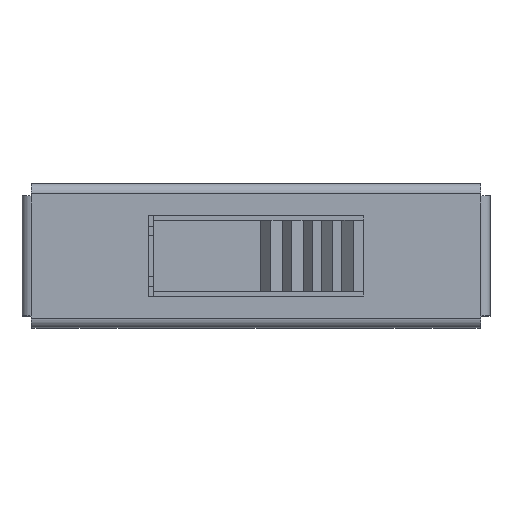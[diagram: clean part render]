
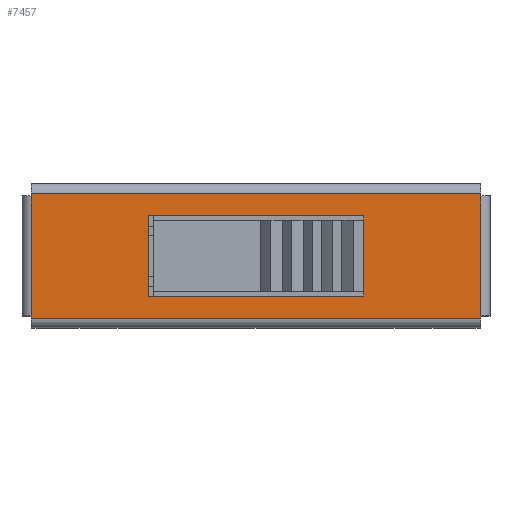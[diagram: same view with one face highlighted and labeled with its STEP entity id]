
A CAD part, top view. The second image highlights one B-rep face of the part: STEP entity #7457.
In plain terms, the highlighted planar face has unit normal (0, 0, 1).
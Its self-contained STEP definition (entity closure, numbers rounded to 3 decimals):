
#1532=DIRECTION('',(0.,-1.,0.));
#1533=VECTOR('',#1532,6.4);
#1534=CARTESIAN_POINT('',(0.,7.1,0.));
#1535=LINE('',#1534,#1533);
#1540=DIRECTION('',(0.,-1.,0.));
#1541=VECTOR('',#1540,0.15);
#1542=CARTESIAN_POINT('',(24.,7.25,0.));
#1543=LINE('',#1542,#1541);
#1544=DIRECTION('',(0.,-1.,0.));
#1545=VECTOR('',#1544,0.15);
#1546=CARTESIAN_POINT('',(24.,0.7,0.));
#1547=LINE('',#1546,#1545);
#1548=DIRECTION('',(0.,1.,0.));
#1549=VECTOR('',#1548,0.15);
#1550=CARTESIAN_POINT('',(0.,0.55,0.));
#1551=LINE('',#1550,#1549);
#1552=DIRECTION('',(0.,1.,0.));
#1553=VECTOR('',#1552,0.15);
#1554=CARTESIAN_POINT('',(0.,7.1,0.));
#1555=LINE('',#1554,#1553);
#1556=DIRECTION('',(0.,1.,0.));
#1557=VECTOR('',#1556,0.25);
#1558=CARTESIAN_POINT('',(17.75,5.8,0.));
#1559=LINE('',#1558,#1557);
#1560=DIRECTION('',(-1.,0.,0.));
#1561=VECTOR('',#1560,11.5);
#1562=CARTESIAN_POINT('',(17.75,6.05,0.));
#1563=LINE('',#1562,#1561);
#1564=DIRECTION('',(0.,-1.,0.));
#1565=VECTOR('',#1564,4.3);
#1566=CARTESIAN_POINT('',(6.25,6.05,0.));
#1567=LINE('',#1566,#1565);
#1568=DIRECTION('',(1.,0.,0.));
#1569=VECTOR('',#1568,11.5);
#1570=CARTESIAN_POINT('',(6.25,1.75,0.));
#1571=LINE('',#1570,#1569);
#1572=DIRECTION('',(0.,1.,0.));
#1573=VECTOR('',#1572,0.25);
#1574=CARTESIAN_POINT('',(17.75,1.75,0.));
#1575=LINE('',#1574,#1573);
#1576=DIRECTION('',(0.,1.,0.));
#1577=VECTOR('',#1576,3.8);
#1578=CARTESIAN_POINT('',(17.75,2.,0.));
#1579=LINE('',#1578,#1577);
#1584=DIRECTION('',(-1.,0.,0.));
#1585=VECTOR('',#1584,24.);
#1586=CARTESIAN_POINT('',(24.,7.25,0.));
#1587=LINE('',#1586,#1585);
#1588=DIRECTION('',(0.,1.,0.));
#1589=VECTOR('',#1588,6.4);
#1590=CARTESIAN_POINT('',(24.,0.7,0.));
#1591=LINE('',#1590,#1589);
#1653=DIRECTION('',(1.,0.,0.));
#1654=VECTOR('',#1653,24.);
#1655=CARTESIAN_POINT('',(0.,0.55,0.));
#1656=LINE('',#1655,#1654);
#4769=CARTESIAN_POINT('',(0.,7.1,0.));
#4771=VERTEX_POINT('',#4769);
#4773=CARTESIAN_POINT('',(0.,7.25,0.));
#4774=VERTEX_POINT('',#4773);
#4781=CARTESIAN_POINT('',(0.,0.7,0.));
#4782=VERTEX_POINT('',#4781);
#4785=CARTESIAN_POINT('',(24.,7.25,0.));
#4786=VERTEX_POINT('',#4785);
#4787=CARTESIAN_POINT('',(24.,7.1,0.));
#4788=VERTEX_POINT('',#4787);
#4789=CARTESIAN_POINT('',(24.,0.7,0.));
#4790=VERTEX_POINT('',#4789);
#4791=CARTESIAN_POINT('',(24.,0.55,0.));
#4792=VERTEX_POINT('',#4791);
#4793=CARTESIAN_POINT('',(0.,0.55,0.));
#4794=VERTEX_POINT('',#4793);
#4795=CARTESIAN_POINT('',(17.75,5.8,0.));
#4796=CARTESIAN_POINT('',(17.75,6.05,0.));
#4797=VERTEX_POINT('',#4795);
#4798=VERTEX_POINT('',#4796);
#4799=CARTESIAN_POINT('',(6.25,6.05,0.));
#4800=VERTEX_POINT('',#4799);
#4801=CARTESIAN_POINT('',(6.25,1.75,0.));
#4802=VERTEX_POINT('',#4801);
#4803=CARTESIAN_POINT('',(17.75,1.75,0.));
#4804=VERTEX_POINT('',#4803);
#4805=CARTESIAN_POINT('',(17.75,2.,0.));
#4806=VERTEX_POINT('',#4805);
#7425=CARTESIAN_POINT('',(12.,3.9,0.));
#7426=DIRECTION('',(0.,0.,1.));
#7427=DIRECTION('',(1.,0.,0.));
#7428=AXIS2_PLACEMENT_3D('',#7425,#7426,#7427);
#7429=PLANE('',#7428);
#7431=ORIENTED_EDGE('',*,*,#7430,.F.);
#7432=ORIENTED_EDGE('',*,*,#7353,.T.);
#7434=ORIENTED_EDGE('',*,*,#7433,.F.);
#7435=ORIENTED_EDGE('',*,*,#6460,.T.);
#7437=ORIENTED_EDGE('',*,*,#7436,.F.);
#7438=ORIENTED_EDGE('',*,*,#6355,.T.);
#7439=ORIENTED_EDGE('',*,*,#7416,.F.);
#7440=ORIENTED_EDGE('',*,*,#7388,.T.);
#7441=EDGE_LOOP('',(#7431,#7432,#7434,#7435,#7437,#7438,#7439,#7440));
#7442=FACE_OUTER_BOUND('',#7441,.F.);
#7444=ORIENTED_EDGE('',*,*,#7443,.T.);
#7446=ORIENTED_EDGE('',*,*,#7445,.T.);
#7448=ORIENTED_EDGE('',*,*,#7447,.T.);
#7450=ORIENTED_EDGE('',*,*,#7449,.T.);
#7452=ORIENTED_EDGE('',*,*,#7451,.T.);
#7454=ORIENTED_EDGE('',*,*,#7453,.T.);
#7455=EDGE_LOOP('',(#7444,#7446,#7448,#7450,#7452,#7454));
#7456=FACE_BOUND('',#7455,.F.);
#7457=ADVANCED_FACE('',(#7442,#7456),#7429,.T.);
#6355=EDGE_CURVE('',#4794,#4782,#1551,.T.);
#6460=EDGE_CURVE('',#4790,#4792,#1547,.T.);
#7353=EDGE_CURVE('',#4786,#4788,#1543,.T.);
#7388=EDGE_CURVE('',#4771,#4774,#1555,.T.);
#7416=EDGE_CURVE('',#4771,#4782,#1535,.T.);
#7430=EDGE_CURVE('',#4786,#4774,#1587,.T.);
#7433=EDGE_CURVE('',#4790,#4788,#1591,.T.);
#7436=EDGE_CURVE('',#4794,#4792,#1656,.T.);
#7443=EDGE_CURVE('',#4797,#4798,#1559,.T.);
#7445=EDGE_CURVE('',#4798,#4800,#1563,.T.);
#7447=EDGE_CURVE('',#4800,#4802,#1567,.T.);
#7449=EDGE_CURVE('',#4802,#4804,#1571,.T.);
#7451=EDGE_CURVE('',#4804,#4806,#1575,.T.);
#7453=EDGE_CURVE('',#4806,#4797,#1579,.T.);
